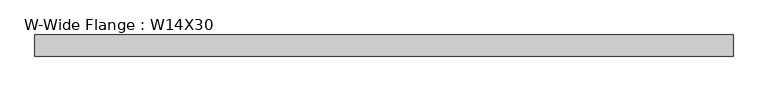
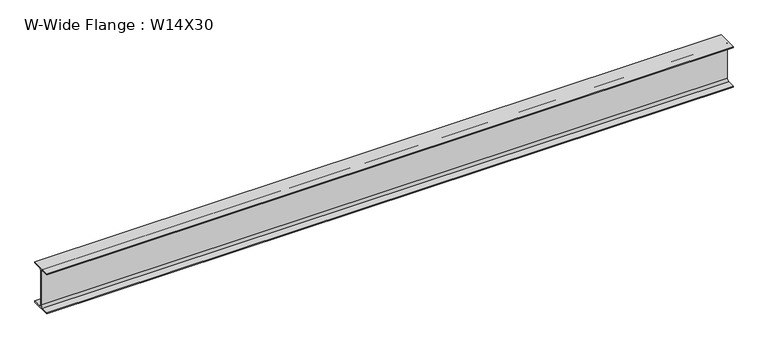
"""IFC4 building model written with IfcOpenShell, lengths in millimetres: beam geometry, W-Wide Flange : W14X30."""

from ifc_helpers import new_model, si_unit, point, frame, frame_2d, origin, place, context, project, spatial, polyline, circle_curve, trimmed, segment, composite_curve, outline, extrude, source, transform, mapped, element, save


def w_wide_flange_w14x30_e86b3798(model_context):
    return source(origin(), model_context, "Body", "SweptSolid", [
        extrude(outline(composite_curve([segment(polyline([(85.4769531, -165.9433594), (85.4769531, -175.7660156), (-85.4769531, -175.7660156), (-85.4769531, -165.9433594), (-22.1753906, -165.9433594)]), True, "CONTINUOUS"), segment(trimmed(circle_curve(frame_2d((-22.1753906, -147.1910156)), 18.7523438), [point((-22.1753906, -165.9433594))], [point((-3.4230469, -147.1910156))], True, "CARTESIAN"), True, "CONTINUOUS"), segment(polyline([(-3.4230469, -147.1910156), (-3.4230469, 147.1910156)]), True, "CONTINUOUS"), segment(trimmed(circle_curve(frame_2d((-22.1753906, 147.1910156)), 18.7523438), [point((-3.4230469, 147.1910156))], [point((-22.1753906, 165.9433594))], True, "CARTESIAN"), True, "CONTINUOUS"), segment(polyline([(-22.1753906, 165.9433594), (-85.4769531, 165.9433594), (-85.4769531, 175.7660156), (85.4769531, 175.7660156), (85.4769531, 165.9433594), (22.1753906, 165.9433594)]), True, "CONTINUOUS"), segment(trimmed(circle_curve(frame_2d((22.1753906, 147.1910156)), 18.7523438), [point((22.1753906, 165.9433594))], [point((3.4230469, 147.1910156))], True, "CARTESIAN"), True, "CONTINUOUS"), segment(polyline([(3.4230469, 147.1910156), (3.4230469, -147.1910156)]), True, "CONTINUOUS"), segment(trimmed(circle_curve(frame_2d((22.1753906, -147.1910156)), 18.7523438), [point((3.4230469, -147.1910156))], [point((22.1753906, -165.9433594))], True, "CARTESIAN"), True, "CONTINUOUS"), segment(polyline([(22.1753906, -165.9433594), (85.4769531, -165.9433594)]), True, "CONTINUOUS")], self_intersect=False)), frame((-2801.6835, 0.0, 0.0), z_axis=(1.0, 0.0, 0.0), x_axis=(0.0, 1.0, 0.0)), (0.0, 0.0, 1.0), 5651.246),
    ])


if __name__ == "__main__":
    model = new_model("IFC4")
    model_context = context("Model", 3, world=origin())
    ifc_project = project(units=[si_unit("LENGTHUNIT", "METRE", prefix="MILLI")], contexts=[model_context])
    site = spatial("IfcSite", under=ifc_project)
    building = spatial("IfcBuilding", under=site)
    placement = place(None, origin())
    w_wide_flange_w14x30_shape = w_wide_flange_w14x30_e86b3798(model_context)
    element("IfcBeam", 1, ObjectType="W-Wide Flange : W14X30", at=placement, inside=building, context=model_context, shape_type="MappedRepresentation", body=[
        mapped(w_wide_flange_w14x30_shape, transform((0.0, 0.0, 0.0), x_axis=(1.0, 0.0, 0.0), y_axis=(0.0, 1.0, 0.0), z_axis=(0.0, 0.0, 1.0))),
    ])
    save(model, "model.ifc")
